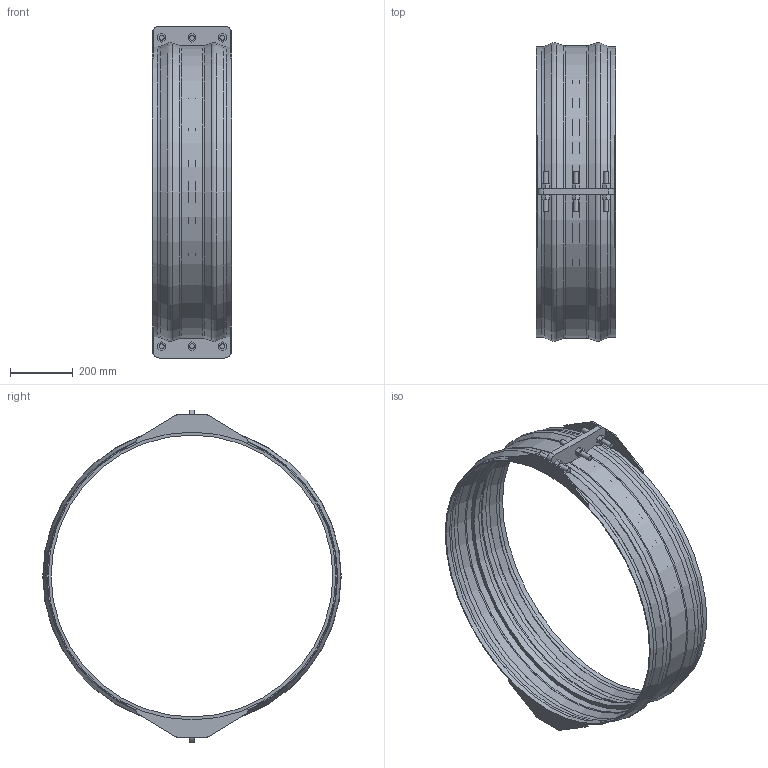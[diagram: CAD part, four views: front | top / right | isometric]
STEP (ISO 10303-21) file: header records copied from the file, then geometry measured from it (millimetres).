
FILE_DESCRIPTION(/* description */ ('VIC SS NON RESTRAINED COUPLING STYLE 229S (FLEX) (BEF)','CAx-IF Rec.Pracs.---Representation and Presentation of Product Manufacturing Information (PMI)---4.0---2014-10-13'),/* implementation_level */ '2;1');
FILE_NAME(/* name */ 'C:\Users\Vjadhav\Desktop\CAD for Inventor\1\229S\STEP\Victaulic_VBSP_Coupling Flexible Non-Restrained_Style 229S (BEF)\Victaulic_VBSP_Coupling Flexible Non-Restrained_Style 229S (BEF)_36 (900).stp',/* time_stamp */ '2021-08-26T18:17:20+06:00',/* author */ ('Vjadhav'),/* organization */ ('Victaulic'),/* preprocessor_version */ 'ST-DEVELOPER v17.2',/* originating_system */ 'Autodesk Inventor 2019',/* authorisation */ '');
FILE_SCHEMA (('AP242_MANAGED_MODEL_BASED_3D_ENGINEERING_MIM_LF { 1 0 10303 442 1 1 4 }'));
Length unit declared in the file: inch
Products named in the file (1): 229S-36.0
Bounding box: 254 x 948.23 x 1054.89 mm (x, y, z)
Volume: 4543851.6 mm3; surface area: 1815238.7 mm2
Topology: 1 solids, 1 shells, 203 faces, 541 edges, 366 vertices
Faces by surface type: plane 130, cylinder 43, torus 18, cone 12
Full cylindrical faces by diameter (mm): 15.875 x12, 895.35 x1, 914.4 x2, 920.75 x2
Entity records: 6840 total; most frequent: CARTESIAN_POINT 1352, DIRECTION 1087, ORIENTED_EDGE 1082, EDGE_CURVE 541, AXIS2_PLACEMENT_3D 369, VERTEX_POINT 366, LINE 349, VECTOR 349
